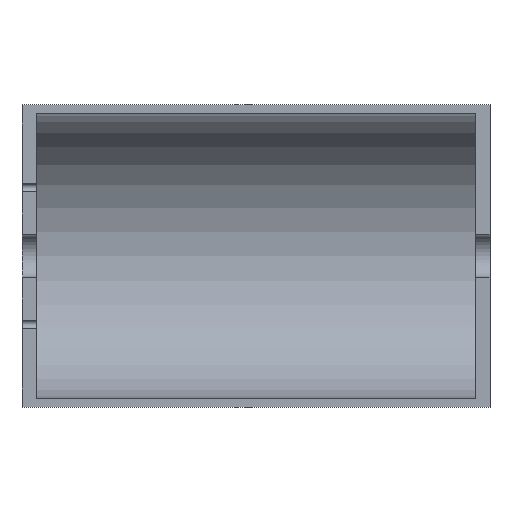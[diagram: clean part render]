
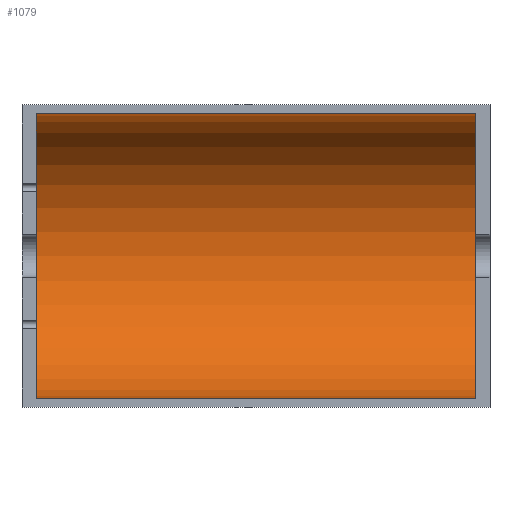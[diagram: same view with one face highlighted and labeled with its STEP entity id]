
A CAD part, top view. The second image highlights one B-rep face of the part: STEP entity #1079.
In plain terms, the highlighted cylindrical face has radius 39.5 mm (diameter 79 mm), a partial arc.
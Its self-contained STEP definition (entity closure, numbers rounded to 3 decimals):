
#73 = PLANE('',#74);
#74 = AXIS2_PLACEMENT_3D('',#75,#76,#77);
#75 = CARTESIAN_POINT('',(554.,-50.,0.));
#76 = DIRECTION('',(0.,0.,1.));
#77 = DIRECTION('',(1.,0.,0.));
#128 = PLANE('',#129);
#129 = AXIS2_PLACEMENT_3D('',#130,#131,#132);
#130 = CARTESIAN_POINT('',(554.,-50.,0.));
#131 = DIRECTION('',(0.,0.,1.));
#132 = DIRECTION('',(1.,0.,0.));
#304 = VERTEX_POINT('',#305);
#305 = CARTESIAN_POINT('',(559.,39.5,0.));
#319 = PLANE('',#320);
#320 = AXIS2_PLACEMENT_3D('',#321,#322,#323);
#321 = CARTESIAN_POINT('',(559.,0.,0.));
#322 = DIRECTION('',(1.,0.,0.));
#323 = DIRECTION('',(-0.,0.,1.));
#331 = EDGE_CURVE('',#304,#332,#334,.T.);
#332 = VERTEX_POINT('',#333);
#333 = CARTESIAN_POINT('',(681.,39.5,0.));
#334 = SURFACE_CURVE('',#335,(#339,#346),.PCURVE_S1.);
#335 = LINE('',#336,#337);
#336 = CARTESIAN_POINT('',(559.,39.5,0.));
#337 = VECTOR('',#338,1.);
#338 = DIRECTION('',(1.,0.,0.));
#339 = PCURVE('',#128,#340);
#340 = DEFINITIONAL_REPRESENTATION('',(#341),#345);
#341 = LINE('',#342,#343);
#342 = CARTESIAN_POINT('',(5.,89.5));
#343 = VECTOR('',#344,1.);
#344 = DIRECTION('',(1.,0.));
#345 = ( GEOMETRIC_REPRESENTATION_CONTEXT(2) 
PARAMETRIC_REPRESENTATION_CONTEXT() REPRESENTATION_CONTEXT('2D SPACE',''
  ) );
#346 = PCURVE('',#347,#352);
#347 = CYLINDRICAL_SURFACE('',#348,39.5);
#348 = AXIS2_PLACEMENT_3D('',#349,#350,#351);
#349 = CARTESIAN_POINT('',(559.,0.,0.));
#350 = DIRECTION('',(1.,0.,0.));
#351 = DIRECTION('',(-0.,0.,1.));
#352 = DEFINITIONAL_REPRESENTATION('',(#353),#357);
#353 = LINE('',#354,#355);
#354 = CARTESIAN_POINT('',(4.712,0.));
#355 = VECTOR('',#356,1.);
#356 = DIRECTION('',(0.,1.));
#357 = ( GEOMETRIC_REPRESENTATION_CONTEXT(2) 
PARAMETRIC_REPRESENTATION_CONTEXT() REPRESENTATION_CONTEXT('2D SPACE',''
  ) );
#375 = PLANE('',#376);
#376 = AXIS2_PLACEMENT_3D('',#377,#378,#379);
#377 = CARTESIAN_POINT('',(681.,0.,0.));
#378 = DIRECTION('',(1.,0.,0.));
#379 = DIRECTION('',(-0.,0.,1.));
#882 = VERTEX_POINT('',#883);
#883 = CARTESIAN_POINT('',(681.,-39.5,0.));
#904 = EDGE_CURVE('',#905,#882,#907,.T.);
#905 = VERTEX_POINT('',#906);
#906 = CARTESIAN_POINT('',(559.,-39.5,0.));
#907 = SURFACE_CURVE('',#908,(#912,#919),.PCURVE_S1.);
#908 = LINE('',#909,#910);
#909 = CARTESIAN_POINT('',(559.,-39.5,0.));
#910 = VECTOR('',#911,1.);
#911 = DIRECTION('',(1.,0.,0.));
#912 = PCURVE('',#73,#913);
#913 = DEFINITIONAL_REPRESENTATION('',(#914),#918);
#914 = LINE('',#915,#916);
#915 = CARTESIAN_POINT('',(5.,10.5));
#916 = VECTOR('',#917,1.);
#917 = DIRECTION('',(1.,0.));
#918 = ( GEOMETRIC_REPRESENTATION_CONTEXT(2) 
PARAMETRIC_REPRESENTATION_CONTEXT() REPRESENTATION_CONTEXT('2D SPACE',''
  ) );
#919 = PCURVE('',#347,#920);
#920 = DEFINITIONAL_REPRESENTATION('',(#921),#925);
#921 = LINE('',#922,#923);
#922 = CARTESIAN_POINT('',(1.571,0.));
#923 = VECTOR('',#924,1.);
#924 = DIRECTION('',(0.,1.));
#925 = ( GEOMETRIC_REPRESENTATION_CONTEXT(2) 
PARAMETRIC_REPRESENTATION_CONTEXT() REPRESENTATION_CONTEXT('2D SPACE',''
  ) );
#1053 = EDGE_CURVE('',#882,#332,#1054,.T.);
#1054 = SURFACE_CURVE('',#1055,(#1060,#1067),.PCURVE_S1.);
#1055 = CIRCLE('',#1056,39.5);
#1056 = AXIS2_PLACEMENT_3D('',#1057,#1058,#1059);
#1057 = CARTESIAN_POINT('',(681.,0.,0.));
#1058 = DIRECTION('',(1.,0.,0.));
#1059 = DIRECTION('',(-0.,0.,1.));
#1060 = PCURVE('',#375,#1061);
#1061 = DEFINITIONAL_REPRESENTATION('',(#1062),#1066);
#1062 = CIRCLE('',#1063,39.5);
#1063 = AXIS2_PLACEMENT_2D('',#1064,#1065);
#1064 = CARTESIAN_POINT('',(0.,0.));
#1065 = DIRECTION('',(1.,0.));
#1066 = ( GEOMETRIC_REPRESENTATION_CONTEXT(2) 
PARAMETRIC_REPRESENTATION_CONTEXT() REPRESENTATION_CONTEXT('2D SPACE',''
  ) );
#1067 = PCURVE('',#347,#1068);
#1068 = DEFINITIONAL_REPRESENTATION('',(#1069),#1073);
#1069 = LINE('',#1070,#1071);
#1070 = CARTESIAN_POINT('',(0.,122.));
#1071 = VECTOR('',#1072,1.);
#1072 = DIRECTION('',(1.,0.));
#1073 = ( GEOMETRIC_REPRESENTATION_CONTEXT(2) 
PARAMETRIC_REPRESENTATION_CONTEXT() REPRESENTATION_CONTEXT('2D SPACE',''
  ) );
#1079 = ADVANCED_FACE('',(#1080),#347,.F.);
#1080 = FACE_BOUND('',#1081,.F.);
#1081 = EDGE_LOOP('',(#1082,#1083,#1084,#1106));
#1082 = ORIENTED_EDGE('',*,*,#1053,.F.);
#1083 = ORIENTED_EDGE('',*,*,#904,.F.);
#1084 = ORIENTED_EDGE('',*,*,#1085,.T.);
#1085 = EDGE_CURVE('',#905,#304,#1086,.T.);
#1086 = SURFACE_CURVE('',#1087,(#1092,#1099),.PCURVE_S1.);
#1087 = CIRCLE('',#1088,39.5);
#1088 = AXIS2_PLACEMENT_3D('',#1089,#1090,#1091);
#1089 = CARTESIAN_POINT('',(559.,0.,0.));
#1090 = DIRECTION('',(1.,0.,0.));
#1091 = DIRECTION('',(-0.,0.,1.));
#1092 = PCURVE('',#347,#1093);
#1093 = DEFINITIONAL_REPRESENTATION('',(#1094),#1098);
#1094 = LINE('',#1095,#1096);
#1095 = CARTESIAN_POINT('',(0.,0.));
#1096 = VECTOR('',#1097,1.);
#1097 = DIRECTION('',(1.,0.));
#1098 = ( GEOMETRIC_REPRESENTATION_CONTEXT(2) 
PARAMETRIC_REPRESENTATION_CONTEXT() REPRESENTATION_CONTEXT('2D SPACE',''
  ) );
#1099 = PCURVE('',#319,#1100);
#1100 = DEFINITIONAL_REPRESENTATION('',(#1101),#1105);
#1101 = CIRCLE('',#1102,39.5);
#1102 = AXIS2_PLACEMENT_2D('',#1103,#1104);
#1103 = CARTESIAN_POINT('',(0.,0.));
#1104 = DIRECTION('',(1.,0.));
#1105 = ( GEOMETRIC_REPRESENTATION_CONTEXT(2) 
PARAMETRIC_REPRESENTATION_CONTEXT() REPRESENTATION_CONTEXT('2D SPACE',''
  ) );
#1106 = ORIENTED_EDGE('',*,*,#331,.T.);
